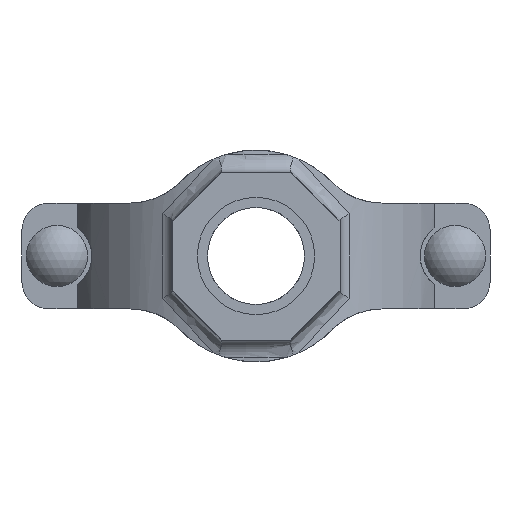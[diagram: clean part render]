
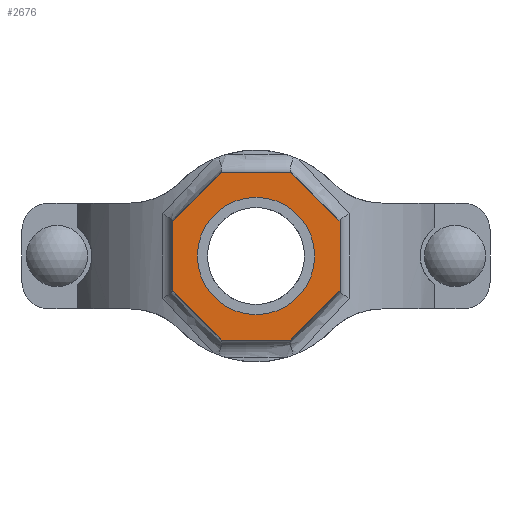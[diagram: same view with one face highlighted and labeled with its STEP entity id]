
A CAD part, front view. The second image highlights one B-rep face of the part: STEP entity #2676.
In plain terms, the highlighted planar face has unit normal (0, -1, 0) as drawn and (0, 1, 0) by its records, which use the part's own axes.
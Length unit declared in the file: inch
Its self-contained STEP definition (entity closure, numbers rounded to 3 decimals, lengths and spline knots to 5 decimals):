
#214=FACE_BOUND('',#496,.T.);
#340=FACE_OUTER_BOUND('',#495,.T.);
#495=EDGE_LOOP('',(#2246,#2247,#2248,#2249,#2250,#2251,#2252,#2253));
#496=EDGE_LOOP('',(#2254));
#634=LINE('',#5085,#820);
#637=LINE('',#5090,#823);
#639=LINE('',#5094,#825);
#641=LINE('',#5098,#827);
#677=LINE('',#5428,#863);
#679=LINE('',#5432,#865);
#681=LINE('',#5436,#867);
#683=LINE('',#5439,#869);
#820=VECTOR('',#3440,0.3937);
#823=VECTOR('',#3445,0.3937);
#825=VECTOR('',#3449,0.3937);
#827=VECTOR('',#3453,0.3937);
#863=VECTOR('',#3575,0.3937);
#865=VECTOR('',#3579,0.3937);
#867=VECTOR('',#3583,0.3937);
#869=VECTOR('',#3587,0.3937);
#955=CIRCLE('',#2943,0.83);
#1159=VERTEX_POINT('',#5082);
#1160=VERTEX_POINT('',#5084);
#1161=VERTEX_POINT('',#5088);
#1162=VERTEX_POINT('',#5092);
#1163=VERTEX_POINT('',#5096);
#1184=VERTEX_POINT('',#5243);
#1210=VERTEX_POINT('',#5427);
#1211=VERTEX_POINT('',#5431);
#1212=VERTEX_POINT('',#5435);
#1493=EDGE_CURVE('',#1160,#1159,#634,.T.);
#1496=EDGE_CURVE('',#1159,#1161,#637,.T.);
#1498=EDGE_CURVE('',#1161,#1162,#639,.T.);
#1500=EDGE_CURVE('',#1162,#1163,#641,.T.);
#1531=EDGE_CURVE('',#1184,#1184,#955,.T.);
#1567=EDGE_CURVE('',#1210,#1160,#677,.T.);
#1569=EDGE_CURVE('',#1211,#1210,#679,.T.);
#1571=EDGE_CURVE('',#1212,#1211,#681,.T.);
#1573=EDGE_CURVE('',#1163,#1212,#683,.T.);
#2246=ORIENTED_EDGE('',*,*,#1573,.T.);
#2247=ORIENTED_EDGE('',*,*,#1571,.T.);
#2248=ORIENTED_EDGE('',*,*,#1569,.T.);
#2249=ORIENTED_EDGE('',*,*,#1567,.T.);
#2250=ORIENTED_EDGE('',*,*,#1493,.T.);
#2251=ORIENTED_EDGE('',*,*,#1496,.T.);
#2252=ORIENTED_EDGE('',*,*,#1498,.T.);
#2253=ORIENTED_EDGE('',*,*,#1500,.T.);
#2254=ORIENTED_EDGE('',*,*,#1531,.T.);
#2406=PLANE('',#2966);
#2676=ADVANCED_FACE('',(#340,#214),#2406,.T.);
#2943=AXIS2_PLACEMENT_3D('',#5244,#3517,#3518);
#2966=AXIS2_PLACEMENT_3D('',#5440,#3588,#3589);
#3440=DIRECTION('',(0.,0.,1.));
#3445=DIRECTION('',(0.707,0.,0.707));
#3449=DIRECTION('',(1.,0.,0.));
#3453=DIRECTION('',(0.707,0.,-0.707));
#3517=DIRECTION('center_axis',(0.,-1.,0.));
#3518=DIRECTION('ref_axis',(-1.,0.,0.));
#3575=DIRECTION('',(-0.707,0.,0.707));
#3579=DIRECTION('',(-1.,0.,0.));
#3583=DIRECTION('',(-0.707,0.,-0.707));
#3587=DIRECTION('',(0.,0.,-1.));
#3588=DIRECTION('center_axis',(0.,1.,0.));
#3589=DIRECTION('ref_axis',(0.,0.,1.));
#5082=CARTESIAN_POINT('',(-1.19,3.78,0.49291));
#5084=CARTESIAN_POINT('',(-1.19,3.78,-0.49291));
#5085=CARTESIAN_POINT('',(-1.19,3.78,0.49291));
#5088=CARTESIAN_POINT('',(-0.49291,3.78,1.19));
#5090=CARTESIAN_POINT('',(-0.49291,3.78,1.19));
#5092=CARTESIAN_POINT('',(0.49291,3.78,1.19));
#5094=CARTESIAN_POINT('',(0.49291,3.78,1.19));
#5096=CARTESIAN_POINT('',(1.19,3.78,0.49291));
#5098=CARTESIAN_POINT('',(1.19,3.78,0.49291));
#5243=CARTESIAN_POINT('',(0.83,3.78,0.));
#5244=CARTESIAN_POINT('Origin',(0.,3.78,0.));
#5427=CARTESIAN_POINT('',(-0.49291,3.78,-1.19));
#5428=CARTESIAN_POINT('',(-1.19,3.78,-0.49291));
#5431=CARTESIAN_POINT('',(0.49291,3.78,-1.19));
#5432=CARTESIAN_POINT('',(-0.49291,3.78,-1.19));
#5435=CARTESIAN_POINT('',(1.19,3.78,-0.49291));
#5436=CARTESIAN_POINT('',(0.49291,3.78,-1.19));
#5439=CARTESIAN_POINT('',(1.19,3.78,-0.49291));
#5440=CARTESIAN_POINT('Origin',(0.,3.78,0.));
